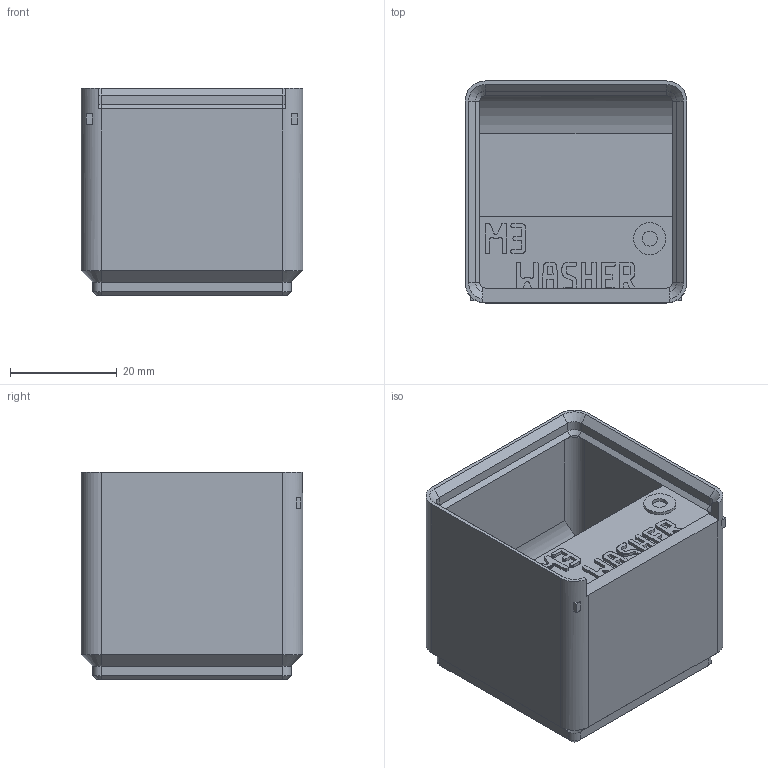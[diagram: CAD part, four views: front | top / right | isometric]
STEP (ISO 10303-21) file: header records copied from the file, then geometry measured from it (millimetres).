
FILE_DESCRIPTION(('Open CASCADE Model'),'2;1');
FILE_NAME('Open CASCADE Shape Model','2026-11-03T10:35:25',('Author'),( 'Open CASCADE'),'Open CASCADE STEP processor 8.0','build123d', 'Unknown');
FILE_SCHEMA(('AUTOMOTIVE_DESIGN { 1 0 10303 214 1 1 1 1 }'));
Products named in the file (1): COMPOUND
Bounding box: 41.5 x 41.5 x 38.9 mm (x, y, z)
Volume: 15918.4 mm3; surface area: 15352.2 mm2
Topology: 1 solids, 1 shells, 945 faces, 2769 edges, 1830 vertices
Faces by surface type: plane 906, cone 20, cylinder 19
Full cylindrical faces by diameter (mm): 2.8 x1, 6 x1
Entity records: 64816 total; most frequent: CARTESIAN_POINT 13759, DIRECTION 7979, LINE 5951, VECTOR 5951, ORIENTED_EDGE 5538, PCURVE 5538, DEFINITIONAL_REPRESENTATION 5538, EDGE_CURVE 2769
